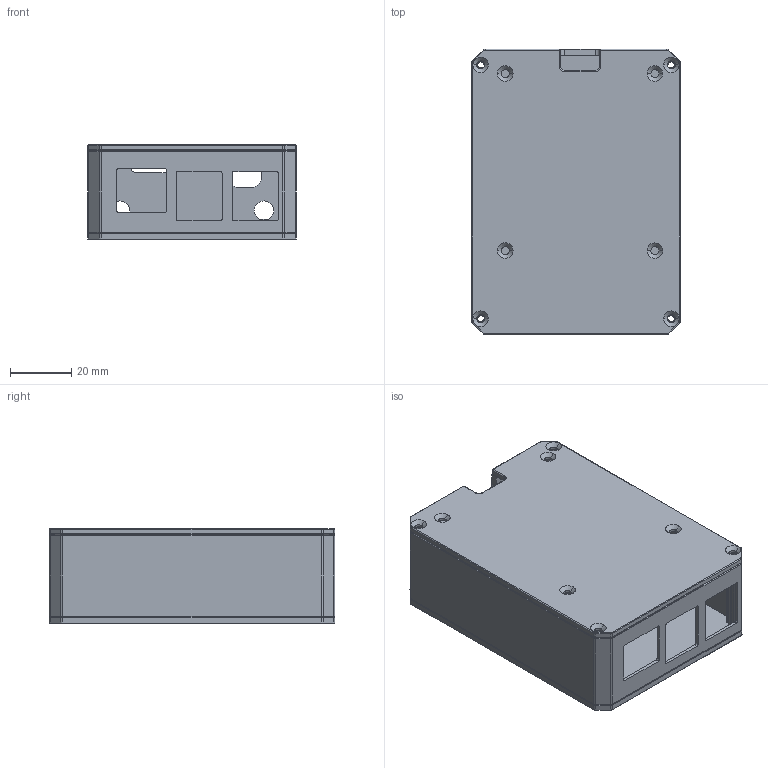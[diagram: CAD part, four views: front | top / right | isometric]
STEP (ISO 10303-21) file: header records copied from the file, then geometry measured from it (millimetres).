
FILE_DESCRIPTION((''),'2;1');
FILE_NAME('AE018_ASM','2024-10-15T17:31:46',('admin'),(''),'CREO PARAMETRIC BY PTC INC, 2024153','CREO PARAMETRIC BY PTC INC, 2024153','');
FILE_SCHEMA(('CONFIG_CONTROL_DESIGN','SHAPE_APPEARANCE_LAYERS_GROUPS'));
Length unit declared in the file: millimetre
Products named in the file (4): 0_AE019_AL03; 0_AE019_AL01; 0_AE019_AL02; AE018_ASM
Assembly tree (3 placements, depth 2):
  AE018_ASM
    0_AE019_AL03
    0_AE019_AL01
    0_AE019_AL02
Bounding box: 68.3 x 93.5 x 31 mm (x, y, z)
Volume: 38469.1 mm3; surface area: 45118.4 mm2
Topology: 3 solids, 3 shells, 1141 faces, 3349 edges, 2208 vertices
Faces by surface type: cylinder 959, plane 98, torus 56, cone 24, sphere 4
Entity records: 41959 total; most frequent: DIRECTION 7713, CARTESIAN_POINT 6739, ORIENTED_EDGE 6690, EDGE_CURVE 3345, AXIS2_PLACEMENT_3D 3226, VERTEX_POINT 2208, CIRCLE 2078, EDGE_LOOP 1965
